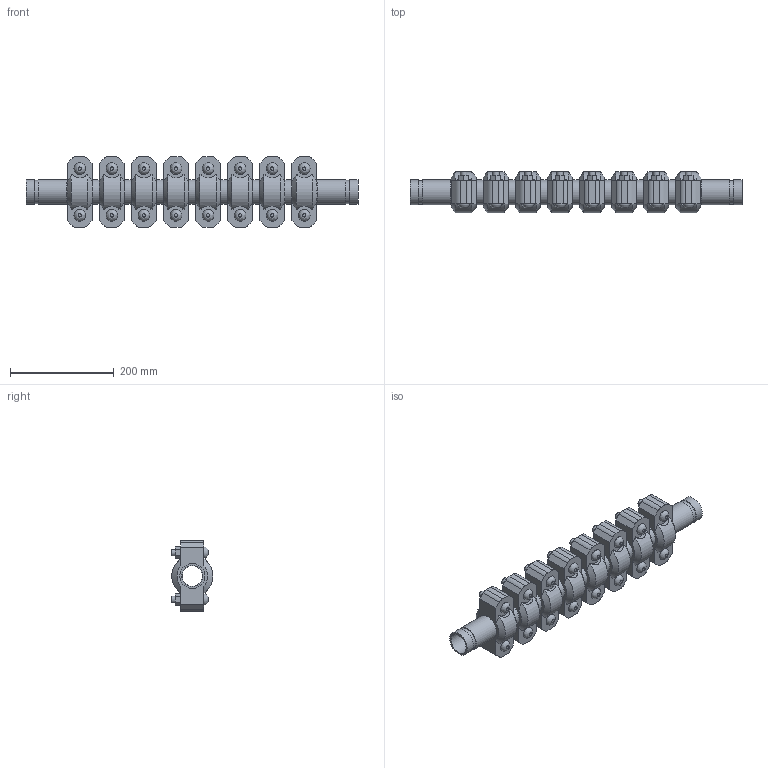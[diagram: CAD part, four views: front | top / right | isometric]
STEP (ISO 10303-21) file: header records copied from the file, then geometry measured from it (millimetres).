
FILE_DESCRIPTION(/* description */ ('VIC EXPANSION JOINT 8 COUPLINGS EXPANDED STYLE 155 (OGS)','CAx-IF Rec.Pracs.---Representation and Presentation of Product Manufacturing Information (PMI)---4.0---2014-10-13'),/* implementation_level */ '2;1');
FILE_NAME(/* name */ 'C:\Users\kkamble\AppData\Roaming\Autodesk\ApplicationPlugins\Victaulic.Temp\A413\Victaulic_IPS_Expansion Joint_Expanded_8 Couplings_Style 155 (OGS)_1.5 (40).stp',/* time_stamp */ '2021-06-27T00:08:43+02:00',/* author */ ('kkamble'),/* organization */ ('Victaulic'),/* preprocessor_version */ 'ST-DEVELOPER v17.2',/* originating_system */ 'Autodesk Inventor 2019',/* authorisation */ '');
FILE_SCHEMA (('AP242_MANAGED_MODEL_BASED_3D_ENGINEERING_MIM_LF { 1 0 10303 442 1 1 4 }'));
Length unit declared in the file: inch
Products named in the file (4): 155-01.5; Nipple-01.5; Nipple-01.5_1; 077-01.5
Assembly tree (17 placements, depth 2):
  155-01.5
    Nipple-01.5  x2
    Nipple-01.5_1  x7
    077-01.5  x8
Bounding box: 641.35 x 81.03 x 136.65 mm (x, y, z)
Volume: 2404304.3 mm3; surface area: 559552.2 mm2
Topology: 17 solids, 33 shells, 596 faces, 1430 edges, 1000 vertices
Faces by surface type: plane 342, cylinder 206, cone 32, bspline 16
Full cylindrical faces by diameter (mm): 12.7 x32, 14.605 x16, 39.37 x8, 40.894 x9, 45.085 x18, 48.26 x43
Entity records: 3065 total; most frequent: CARTESIAN_POINT 609, DIRECTION 497, ORIENTED_EDGE 410, EDGE_CURVE 205, AXIS2_PLACEMENT_3D 200, VERTEX_POINT 146, EDGE_LOOP 111, LINE 97
